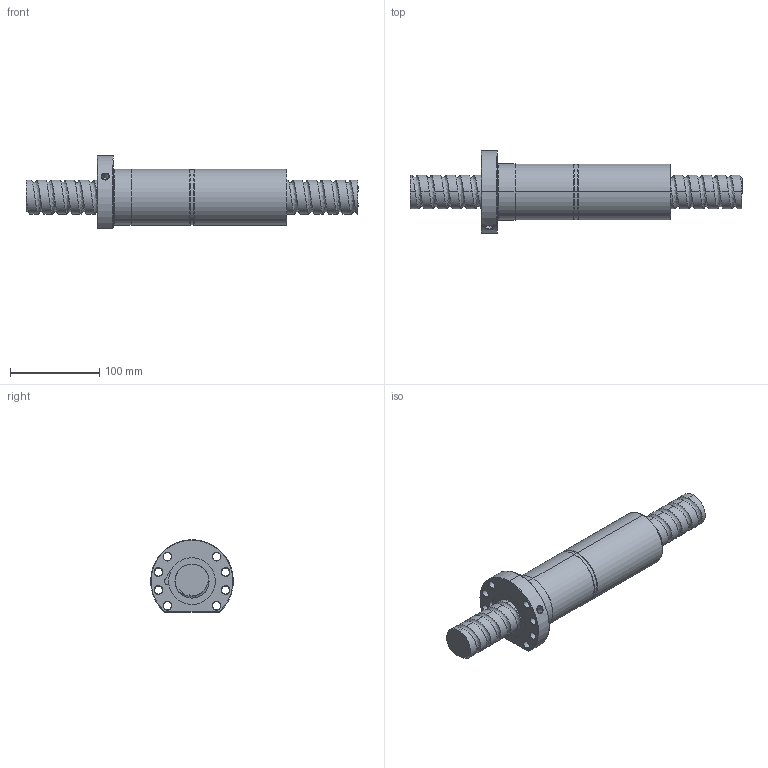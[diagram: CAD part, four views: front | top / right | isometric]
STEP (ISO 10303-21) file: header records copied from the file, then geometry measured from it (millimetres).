
FILE_DESCRIPTION (( 'STEP AP214' ), '1' );
FILE_NAME ('FDDC03816T5-F-B.STEP', '2010-07-06T05:33:58', ( 'XPAUTO' ), ( 'XPAUTO' ), 'SwSTEP 2.0', 'SolidWorks 2007', '' );
FILE_SCHEMA (( 'AUTOMOTIVE_DESIGN' ));
Length unit declared in the file: millimetre
Products named in the file (3): FDDC03816T5-F-B; FDDC03816T5-F-B.sldasm-Part-1_預設; FDDC03816T5-F-B.sldasm-Part-2_預設
Assembly tree (2 placements, depth 2):
  FDDC03816T5-F-B
    FDDC03816T5-F-B.sldasm-Part-1_預設
    FDDC03816T5-F-B.sldasm-Part-2_預設
Bounding box: 373 x 92.99 x 81.5 mm (x, y, z)
Volume: 855859.9 mm3; surface area: 134989.7 mm2
Topology: 2 solids, 2 shells, 160 faces, 401 edges, 250 vertices
Faces by surface type: cylinder 94, cone 32, plane 20, torus 9, bspline 5
Entity records: 31570 total; most frequent: CARTESIAN_POINT 27768, ORIENTED_EDGE 802, DIRECTION 741, EDGE_CURVE 401, AXIS2_PLACEMENT_3D 301, VERTEX_POINT 250, EDGE_LOOP 185, FACE_OUTER_BOUND 160
